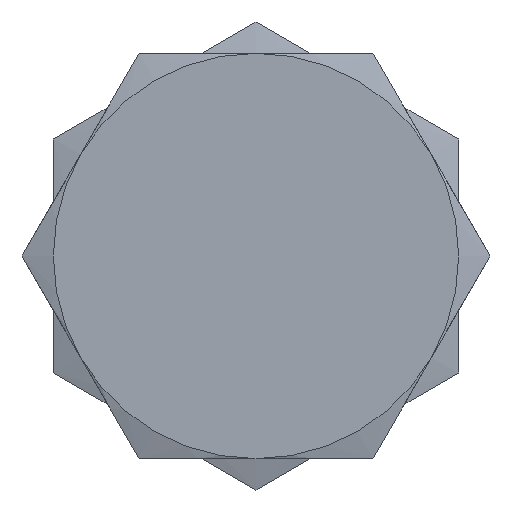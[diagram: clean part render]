
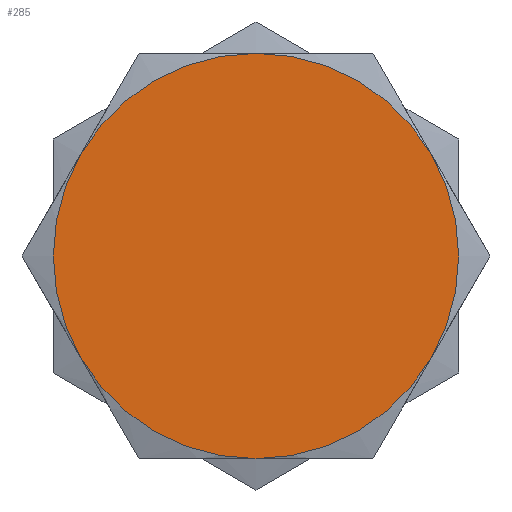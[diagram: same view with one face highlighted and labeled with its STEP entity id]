
A CAD part, front view. The second image highlights one B-rep face of the part: STEP entity #285.
In plain terms, the highlighted planar face has unit normal (0, -1, 0).
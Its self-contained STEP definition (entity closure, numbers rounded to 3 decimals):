
#3 = EDGE_LOOP ( 'NONE', ( #1664, #1729, #669, #945, #387, #656 ) ) ;
#35 = DIRECTION ( 'NONE',  ( 0., -1., 0. ) ) ;
#38 = AXIS2_PLACEMENT_3D ( 'NONE', #716, #1283, #1138 ) ;
#103 = CARTESIAN_POINT ( 'NONE',  ( 0., 0., 0. ) ) ;
#117 = VERTEX_POINT ( 'NONE', #1268 ) ;
#125 = CARTESIAN_POINT ( 'NONE',  ( 0., 0., 0. ) ) ;
#257 = DIRECTION ( 'NONE',  ( 0., 1., 0. ) ) ;
#272 = VERTEX_POINT ( 'NONE', #1556 ) ;
#285 = ADVANCED_FACE ( 'NONE', ( #877 ), #1482, .F. ) ;
#301 = CARTESIAN_POINT ( 'NONE',  ( 0., 0., 0. ) ) ;
#330 = CIRCLE ( 'NONE', #566, 6.5 ) ;
#387 = ORIENTED_EDGE ( 'NONE', *, *, #1636, .T. ) ;
#566 = AXIS2_PLACEMENT_3D ( 'NONE', #1239, #1654, #1522 ) ;
#582 = DIRECTION ( 'NONE',  ( 0., 0., -1. ) ) ;
#655 = EDGE_CURVE ( 'NONE', #1793, #1603, #1710, .T. ) ;
#656 = ORIENTED_EDGE ( 'NONE', *, *, #1536, .T. ) ;
#669 = ORIENTED_EDGE ( 'NONE', *, *, #701, .T. ) ;
#686 = CARTESIAN_POINT ( 'NONE',  ( 5.629, 0., -3.25 ) ) ;
#701 = EDGE_CURVE ( 'NONE', #831, #272, #1418, .T. ) ;
#716 = CARTESIAN_POINT ( 'NONE',  ( 0., 0., 0. ) ) ;
#761 = VERTEX_POINT ( 'NONE', #1044 ) ;
#766 = DIRECTION ( 'NONE',  ( 0., 0., -1. ) ) ;
#786 = CARTESIAN_POINT ( 'NONE',  ( 5.629, 0., 3.25 ) ) ;
#831 = VERTEX_POINT ( 'NONE', #786 ) ;
#849 = DIRECTION ( 'NONE',  ( 0., 0., -1. ) ) ;
#877 = FACE_OUTER_BOUND ( 'NONE', #3, .T. ) ;
#900 = AXIS2_PLACEMENT_3D ( 'NONE', #1480, #1231, #1695 ) ;
#945 = ORIENTED_EDGE ( 'NONE', *, *, #1358, .T. ) ;
#999 = EDGE_CURVE ( 'NONE', #1603, #831, #1217, .T. ) ;
#1044 = CARTESIAN_POINT ( 'NONE',  ( -5.629, 0., 3.25 ) ) ;
#1064 = DIRECTION ( 'NONE',  ( 0., -1., 0. ) ) ;
#1098 = AXIS2_PLACEMENT_3D ( 'NONE', #1194, #1064, #766 ) ;
#1138 = DIRECTION ( 'NONE',  ( 0., 0., -1. ) ) ;
#1194 = CARTESIAN_POINT ( 'NONE',  ( 0., 0., 0. ) ) ;
#1217 = CIRCLE ( 'NONE', #1098, 6.5 ) ;
#1222 = CARTESIAN_POINT ( 'NONE',  ( 0., 0., -6.5 ) ) ;
#1231 = DIRECTION ( 'NONE',  ( 0., -1., 0. ) ) ;
#1239 = CARTESIAN_POINT ( 'NONE',  ( 0., 0., 0. ) ) ;
#1255 = CIRCLE ( 'NONE', #38, 6.5 ) ;
#1268 = CARTESIAN_POINT ( 'NONE',  ( -5.629, 0., -3.25 ) ) ;
#1283 = DIRECTION ( 'NONE',  ( 0., -1., 0. ) ) ;
#1331 = AXIS2_PLACEMENT_3D ( 'NONE', #103, #257, #1785 ) ;
#1358 = EDGE_CURVE ( 'NONE', #272, #761, #1255, .T. ) ;
#1361 = DIRECTION ( 'NONE',  ( 0., -1., 0. ) ) ;
#1418 = CIRCLE ( 'NONE', #1637, 6.5 ) ;
#1480 = CARTESIAN_POINT ( 'NONE',  ( 0., 0., 0. ) ) ;
#1482 = PLANE ( 'NONE',  #1331 ) ;
#1522 = DIRECTION ( 'NONE',  ( 0., 0., -1. ) ) ;
#1536 = EDGE_CURVE ( 'NONE', #117, #1793, #1571, .T. ) ;
#1556 = CARTESIAN_POINT ( 'NONE',  ( 0., 0., 6.5 ) ) ;
#1571 = CIRCLE ( 'NONE', #1596, 6.5 ) ;
#1596 = AXIS2_PLACEMENT_3D ( 'NONE', #125, #1361, #849 ) ;
#1603 = VERTEX_POINT ( 'NONE', #686 ) ;
#1636 = EDGE_CURVE ( 'NONE', #761, #117, #330, .T. ) ;
#1637 = AXIS2_PLACEMENT_3D ( 'NONE', #301, #35, #582 ) ;
#1654 = DIRECTION ( 'NONE',  ( 0., -1., 0. ) ) ;
#1664 = ORIENTED_EDGE ( 'NONE', *, *, #655, .T. ) ;
#1695 = DIRECTION ( 'NONE',  ( 0., 0., -1. ) ) ;
#1710 = CIRCLE ( 'NONE', #900, 6.5 ) ;
#1729 = ORIENTED_EDGE ( 'NONE', *, *, #999, .T. ) ;
#1785 = DIRECTION ( 'NONE',  ( 0., 0., 1. ) ) ;
#1793 = VERTEX_POINT ( 'NONE', #1222 ) ;
